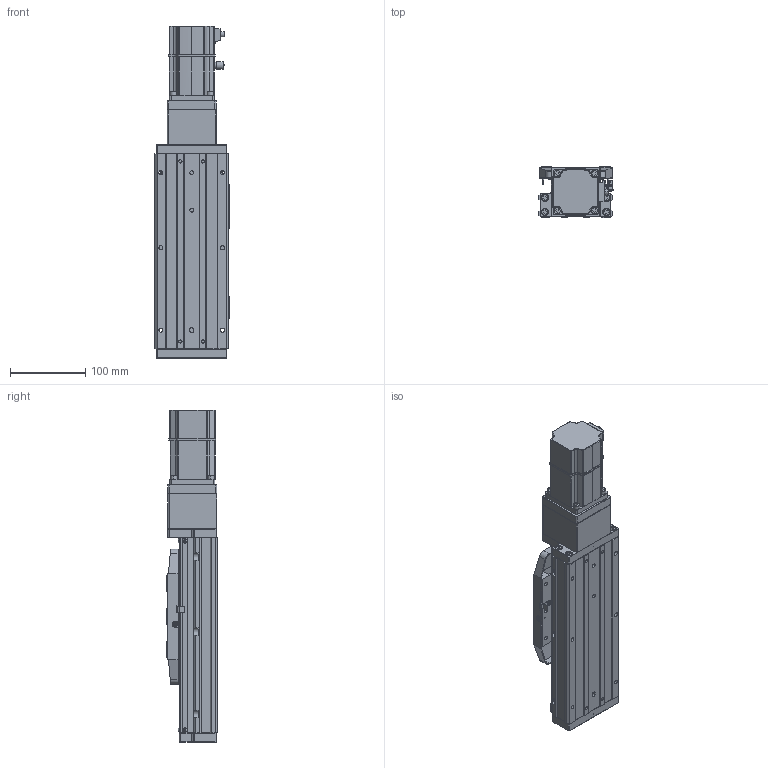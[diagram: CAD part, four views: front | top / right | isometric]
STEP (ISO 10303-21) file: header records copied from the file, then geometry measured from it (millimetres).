
FILE_DESCRIPTION (( 'STEP AP203' ), '1' );
FILE_NAME ('CTHA100-50-BC-M20-C4L.step', '2022-07-06T08:52:45', ( '微软用户' ), ( '微软中国' ), 'SwSTEP 2.0', 'SolidWorks 2020', '' );
FILE_SCHEMA (( 'CONFIG_CONTROL_DESIGN' ));
Length unit declared in the file: millimetre
Products named in the file (20): GBT 70.3-M3℅6; KTHA100-005; GBT70.1 M5℅16; CTHA100-002; GB¨uT 70.2-M3¡Á5_M3¡Á6; CTHA60-016; CTHA100-031; EE_SX911P_R; _X2_4E0983F1_X0_200W_1; CTHA86-030; CTHA60-017; CTHA86-013; CTHA100-50-BC-M20-C4L; CTHA60-021; CTHA86-027; KTHA100-001_260; GBT77-2000 M3×3; CTHA86-006-1_CTHA86-006-2; KTHA100-004; GBT 70.1-M3℅6
Assembly tree (63 placements, depth 2):
  CTHA100-50-BC-M20-C4L
    KTHA100-001_260
    KTHA100-004
    KTHA100-005
    GB¨uT 70.2-M3¡Á5_M3¡Á6  x10
    EE_SX911P_R  x3
    CTHA60-017  x3
    CTHA60-021  x2
    GBT77-2000 M3×3  x6
    GBT 70.1-M3℅6  x6
    GBT70.1 M5℅16  x14
    CTHA60-016  x2
    _X2_4E0983F1_X0_200W_1
    CTHA86-013
    CTHA86-027
    CTHA86-006-1_CTHA86-006-2
    GBT 70.3-M3℅6  x6
    CTHA100-002
    CTHA100-031
    CTHA86-030  x2
Bounding box: 98.82 x 68 x 442.5 mm (x, y, z)
Volume: 1748133.9 mm3; surface area: 343192.7 mm2
Topology: 65 solids, 65 shells, 2539 faces, 6046 edges, 3724 vertices
Faces by surface type: plane 1315, cylinder 655, cone 364, torus 112, bspline 69, sphere 24
Entity records: 42412 total; most frequent: CARTESIAN_POINT 8002, DIRECTION 6601, ORIENTED_EDGE 6364, EDGE_CURVE 3182, AXIS2_PLACEMENT_3D 2259, LINE 2083, VECTOR 2083, VERTEX_POINT 2002
